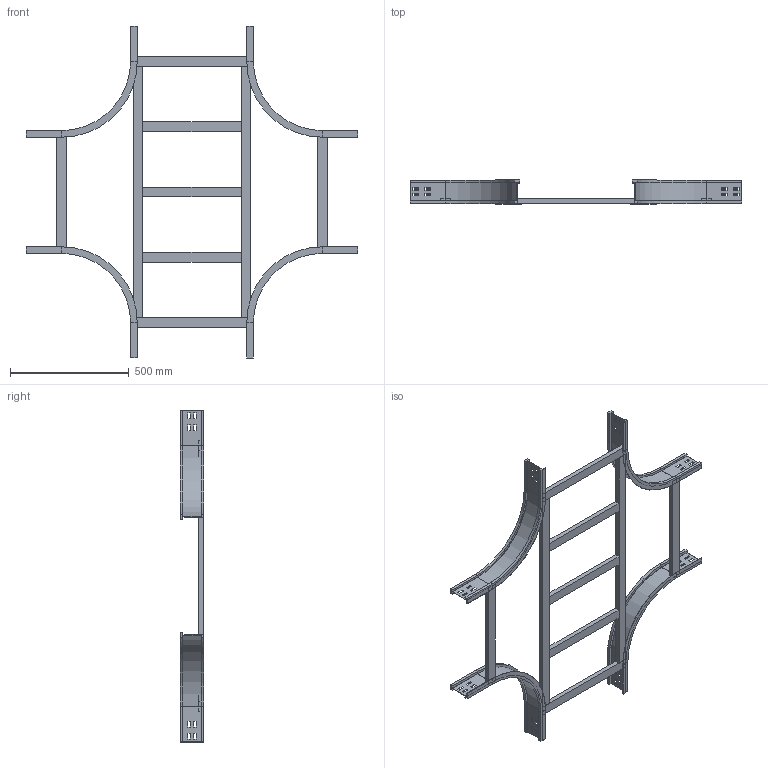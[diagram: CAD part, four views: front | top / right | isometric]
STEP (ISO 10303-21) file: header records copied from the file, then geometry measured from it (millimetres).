
FILE_DESCRIPTION (( 'STEP AP214' ), '1' );
FILE_NAME ('17S3D500.step', '2025-02-21T16:16:01', ( '' ), ( '' ), 'SwSTEP 2.0', 'SolidWorks 2023', '' );
FILE_SCHEMA (( 'AUTOMOTIVE_DESIGN' ));
Length unit declared in the file: millimetre
Products named in the file (5): TRAVERSINO_INTERMEDIO_X_R300+500; 17S3D500; LONGH.INTERNO 90°_H100_R300; TRAVERSINO_LONG._R300+500; TRAVERSINO_500
Assembly tree (13 placements, depth 2):
  17S3D500
    LONGH.INTERNO 90°_H100_R300  x4
    TRAVERSINO_500  x4
    TRAVERSINO_INTERMEDIO_X_R300+500  x3
    TRAVERSINO_LONG._R300+500  x2
Bounding box: 1400 x 100 x 1400 mm (x, y, z)
Volume: 5965124.2 mm3; surface area: 1574788.2 mm2
Topology: 13 solids, 13 shells, 334 faces, 828 edges, 520 vertices
Faces by surface type: plane 310, cylinder 24
Entity records: 2778 total; most frequent: CARTESIAN_POINT 456, DIRECTION 436, ORIENTED_EDGE 432, EDGE_CURVE 216, VECTOR 204, LINE 204, VERTEX_POINT 136, AXIS2_PLACEMENT_3D 116
